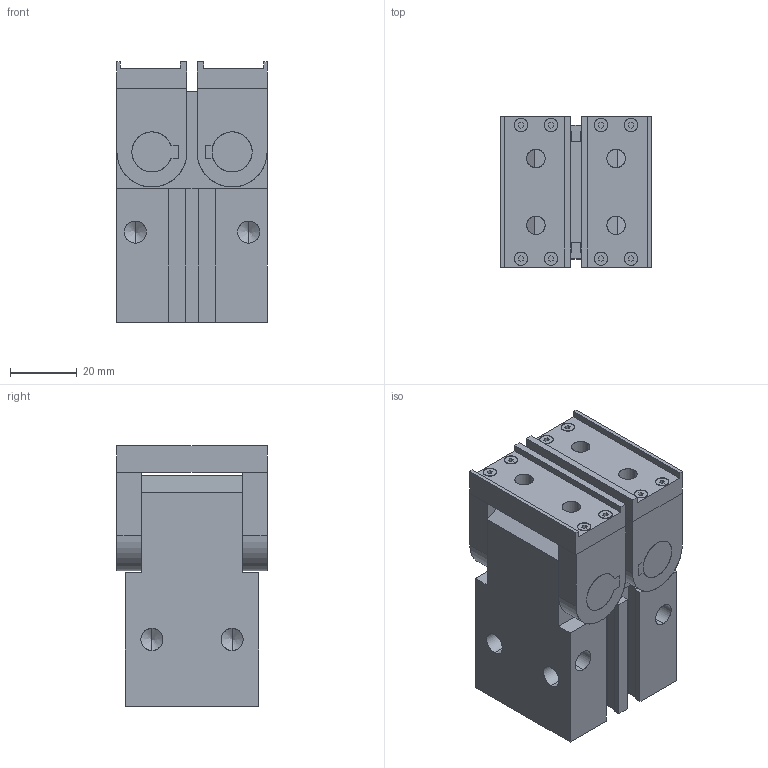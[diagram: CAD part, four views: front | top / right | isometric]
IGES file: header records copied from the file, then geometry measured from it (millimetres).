
Start section: SolidWorks IGES file using analytic representation for surfaces
Global section: file name: C:\Documents and Settings\1EDPI\Mes documents\Kevin 17.01.13\ghk\ghk25\GHK 25 close.IGS; native system: SolidWorks 2010; preprocessor: SolidWorks 2010; author: 1EDPI; date: 130304.104750; units: millimetre
Bounding box: 45 x 45 x 78 mm (x, y, z)
Surface area: 36199 mm2 (no closed solid volume)
Topology: 0 solids, 0 shells, 285 faces, 3354 edges, 3334 vertices
Faces by surface type: bspline 193, revolution 92
